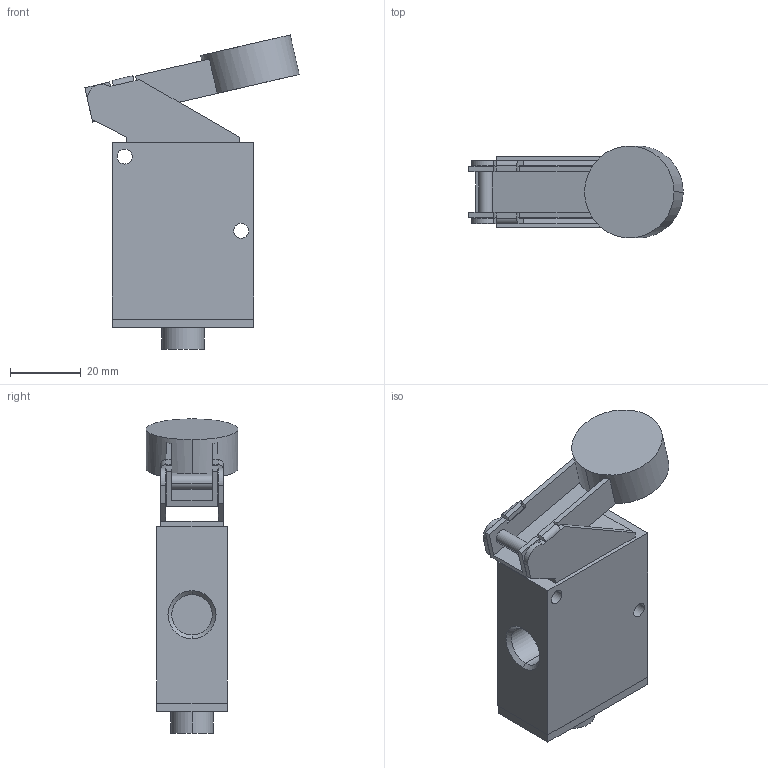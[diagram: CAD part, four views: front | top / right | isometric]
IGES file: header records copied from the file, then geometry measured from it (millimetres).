
Global section: file name: No Iges File Name specified; native system: AutoDesk Inventor R11.0; preprocessor: AutoDesk Inventor Iges Exporter R11.0; author: No Author specified; organization: No Organization specified; date: 20061219.113310; units: millimetre
Bounding box: 60.71 x 26 x 88.96 mm (x, y, z)
Volume: 48650 mm3; surface area: 17398.9 mm2
Topology: 3 solids, 3 shells, 101 faces, 238 edges, 152 vertices
Faces by surface type: plane 59, bspline 27, cylinder 10, revolution 5
